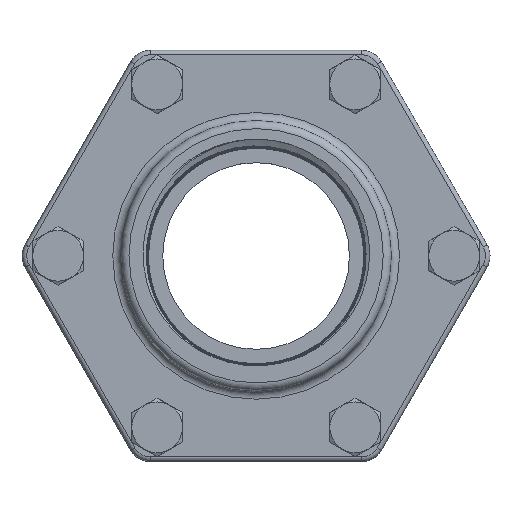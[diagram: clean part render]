
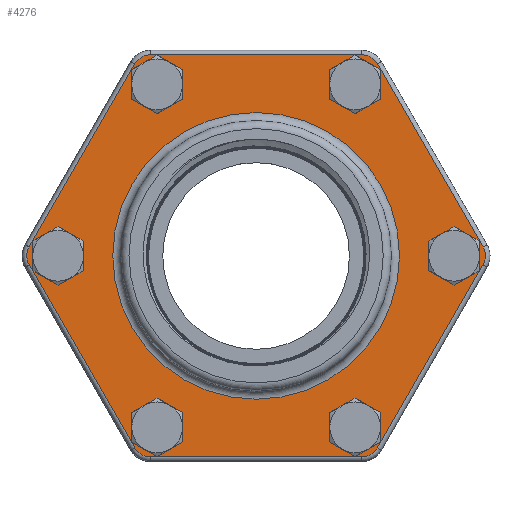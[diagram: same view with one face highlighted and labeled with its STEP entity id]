
A CAD part, top view. The second image highlights one B-rep face of the part: STEP entity #4276.
In plain terms, the highlighted planar face has unit normal (0, 0, 1).
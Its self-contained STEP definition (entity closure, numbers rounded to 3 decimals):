
#1365=PLANE('',#4492);
#1411=VECTOR('',#4869,1.);
#1415=VECTOR('',#4897,1.);
#1417=VECTOR('',#4902,1.);
#1418=VECTOR('',#4905,1.);
#1419=VECTOR('',#4908,1.);
#1420=VECTOR('',#4911,1.);
#1557=LINE('',#5698,#1411);
#1561=LINE('',#5722,#1415);
#1563=LINE('',#5728,#1417);
#1564=LINE('',#5732,#1418);
#1565=LINE('',#5736,#1419);
#1566=LINE('',#5739,#1420);
#1772=VERTEX_POINT('',#5644);
#1775=VERTEX_POINT('',#5649);
#1796=VERTEX_POINT('',#5699);
#1797=VERTEX_POINT('',#5703);
#1799=VERTEX_POINT('',#5711);
#1802=VERTEX_POINT('',#5716);
#1803=VERTEX_POINT('',#5723);
#1805=VERTEX_POINT('',#5729);
#1806=VERTEX_POINT('',#5731);
#1807=VERTEX_POINT('',#5733);
#1808=VERTEX_POINT('',#5735);
#1809=VERTEX_POINT('',#5737);
#1810=VERTEX_POINT('',#5741);
#1811=VERTEX_POINT('',#5743);
#1812=VERTEX_POINT('',#5745);
#1813=VERTEX_POINT('',#5747);
#1814=VERTEX_POINT('',#5749);
#1815=VERTEX_POINT('',#5751);
#1816=VERTEX_POINT('',#5753);
#2120=CIRCLE('',#4460,0.508);
#2137=CIRCLE('',#4482,0.508);
#2141=CIRCLE('',#4488,0.508);
#2143=CIRCLE('',#4493,0.508);
#2144=CIRCLE('',#4494,0.508);
#2145=CIRCLE('',#4495,0.508);
#2146=CIRCLE('',#4496,0.503);
#2147=CIRCLE('',#4497,0.503);
#2148=CIRCLE('',#4498,0.503);
#2149=CIRCLE('',#4499,0.503);
#2150=CIRCLE('',#4500,0.503);
#2151=CIRCLE('',#4501,0.503);
#2152=CIRCLE('',#4502,4.039);
#2274=EDGE_CURVE('',#1775,#1772,#2120,.T.);
#2298=EDGE_CURVE('',#1772,#1796,#1557,.T.);
#2302=EDGE_CURVE('',#1796,#1797,#2137,.T.);
#2307=EDGE_CURVE('',#1802,#1799,#2141,.T.);
#2310=EDGE_CURVE('',#1799,#1803,#1561,.T.);
#2313=EDGE_CURVE('',#1805,#1775,#1563,.T.);
#2314=EDGE_CURVE('',#1806,#1805,#2143,.T.);
#2315=EDGE_CURVE('',#1807,#1806,#1564,.T.);
#2316=EDGE_CURVE('',#1808,#1807,#2144,.T.);
#2317=EDGE_CURVE('',#1809,#1808,#1565,.T.);
#2318=EDGE_CURVE('',#1803,#1809,#2145,.T.);
#2319=EDGE_CURVE('',#1797,#1802,#1566,.T.);
#2320=EDGE_CURVE('',#1810,#1810,#2146,.T.);
#2321=EDGE_CURVE('',#1811,#1811,#2147,.T.);
#2322=EDGE_CURVE('',#1812,#1812,#2148,.T.);
#2323=EDGE_CURVE('',#1813,#1813,#2149,.T.);
#2324=EDGE_CURVE('',#1814,#1814,#2150,.T.);
#2325=EDGE_CURVE('',#1815,#1815,#2151,.T.);
#2326=EDGE_CURVE('',#1816,#1816,#2152,.T.);
#2831=ORIENTED_EDGE('',*,*,#2274,.F.);
#2832=ORIENTED_EDGE('',*,*,#2313,.F.);
#2833=ORIENTED_EDGE('',*,*,#2314,.F.);
#2834=ORIENTED_EDGE('',*,*,#2315,.F.);
#2835=ORIENTED_EDGE('',*,*,#2316,.F.);
#2836=ORIENTED_EDGE('',*,*,#2317,.F.);
#2837=ORIENTED_EDGE('',*,*,#2318,.F.);
#2838=ORIENTED_EDGE('',*,*,#2310,.F.);
#2839=ORIENTED_EDGE('',*,*,#2307,.F.);
#2840=ORIENTED_EDGE('',*,*,#2319,.F.);
#2841=ORIENTED_EDGE('',*,*,#2302,.F.);
#2842=ORIENTED_EDGE('',*,*,#2298,.F.);
#2843=ORIENTED_EDGE('',*,*,#2320,.F.);
#2844=ORIENTED_EDGE('',*,*,#2321,.F.);
#2845=ORIENTED_EDGE('',*,*,#2322,.F.);
#2846=ORIENTED_EDGE('',*,*,#2323,.F.);
#2847=ORIENTED_EDGE('',*,*,#2324,.F.);
#2848=ORIENTED_EDGE('',*,*,#2325,.F.);
#2849=ORIENTED_EDGE('',*,*,#2326,.F.);
#3803=EDGE_LOOP('',(#2831,#2832,#2833,#2834,#2835,#2836,#2837,#2838,#2839,
#2840,#2841,#2842));
#3804=EDGE_LOOP('',(#2843));
#3805=EDGE_LOOP('',(#2844));
#3806=EDGE_LOOP('',(#2845));
#3807=EDGE_LOOP('',(#2846));
#3808=EDGE_LOOP('',(#2847));
#3809=EDGE_LOOP('',(#2848));
#3810=EDGE_LOOP('',(#2849));
#4043=FACE_BOUND('',#3803,.T.);
#4044=FACE_BOUND('',#3804,.T.);
#4045=FACE_BOUND('',#3805,.T.);
#4046=FACE_BOUND('',#3806,.T.);
#4047=FACE_BOUND('',#3807,.T.);
#4048=FACE_BOUND('',#3808,.T.);
#4049=FACE_BOUND('',#3809,.T.);
#4050=FACE_BOUND('',#3810,.T.);
#4276=ADVANCED_FACE('',(#4043,#4044,#4045,#4046,#4047,#4048,#4049,#4050),
#1365,.T.);
#4460=AXIS2_PLACEMENT_3D('',#5650,#4825,#4826);
#4482=AXIS2_PLACEMENT_3D('',#5706,#4877,#4878);
#4488=AXIS2_PLACEMENT_3D('',#5717,#4889,#4890);
#4492=AXIS2_PLACEMENT_3D('',#5727,#4901,$);
#4493=AXIS2_PLACEMENT_3D('',#5730,#4903,#4904);
#4494=AXIS2_PLACEMENT_3D('',#5734,#4906,#4907);
#4495=AXIS2_PLACEMENT_3D('',#5738,#4909,#4910);
#4496=AXIS2_PLACEMENT_3D('',#5740,#4912,#4913);
#4497=AXIS2_PLACEMENT_3D('',#5742,#4914,#4915);
#4498=AXIS2_PLACEMENT_3D('',#5744,#4916,#4917);
#4499=AXIS2_PLACEMENT_3D('',#5746,#4918,#4919);
#4500=AXIS2_PLACEMENT_3D('',#5748,#4920,#4921);
#4501=AXIS2_PLACEMENT_3D('',#5750,#4922,#4923);
#4502=AXIS2_PLACEMENT_3D('',#5752,#4924,#4925);
#4825=DIRECTION('',(0.,0.,-1.));
#4826=DIRECTION('',(0.254,-0.44,0.));
#4869=DIRECTION('',(-1.,0.,0.));
#4877=DIRECTION('',(0.,0.,-1.));
#4878=DIRECTION('',(-0.254,-0.44,0.));
#4889=DIRECTION('',(0.,0.,-1.));
#4890=DIRECTION('',(-0.508,0.,0.));
#4897=DIRECTION('',(0.5,0.866,0.));
#4901=DIRECTION('',(0.,0.,1.));
#4902=DIRECTION('',(-0.5,-0.866,0.));
#4903=DIRECTION('',(0.,0.,-1.));
#4904=DIRECTION('',(0.508,0.,0.));
#4905=DIRECTION('',(0.5,-0.866,0.));
#4906=DIRECTION('',(0.,0.,-1.));
#4907=DIRECTION('',(0.254,0.44,0.));
#4908=DIRECTION('',(1.,0.,0.));
#4909=DIRECTION('',(0.,0.,-1.));
#4910=DIRECTION('',(-0.254,0.44,0.));
#4911=DIRECTION('',(-0.5,0.866,0.));
#4912=DIRECTION('',(0.,0.,1.));
#4913=DIRECTION('',(0.503,0.,0.));
#4914=DIRECTION('',(0.,0.,1.));
#4915=DIRECTION('',(0.503,0.,0.));
#4916=DIRECTION('',(0.,0.,1.));
#4917=DIRECTION('',(0.503,0.,0.));
#4918=DIRECTION('',(0.,0.,1.));
#4919=DIRECTION('',(0.503,0.,0.));
#4920=DIRECTION('',(0.,0.,1.));
#4921=DIRECTION('',(0.503,0.,0.));
#4922=DIRECTION('',(0.,0.,1.));
#4923=DIRECTION('',(0.503,0.,0.));
#4924=DIRECTION('',(0.,0.,1.));
#4925=DIRECTION('',(-4.039,0.,0.));
#5644=CARTESIAN_POINT('',(2.977,-5.664,1.854));
#5649=CARTESIAN_POINT('',(3.417,-5.41,1.854));
#5650=CARTESIAN_POINT('',(2.977,-5.156,1.854));
#5698=CARTESIAN_POINT('',(0.,-5.664,1.854));
#5699=CARTESIAN_POINT('',(-2.977,-5.664,1.854));
#5703=CARTESIAN_POINT('',(-3.417,-5.41,1.854));
#5706=CARTESIAN_POINT('',(-2.977,-5.156,1.854));
#5711=CARTESIAN_POINT('',(-6.394,0.254,1.854));
#5716=CARTESIAN_POINT('',(-6.394,-0.254,1.854));
#5717=CARTESIAN_POINT('',(-5.954,0.,1.854));
#5722=CARTESIAN_POINT('',(-4.905,2.832,1.854));
#5723=CARTESIAN_POINT('',(-3.417,5.41,1.854));
#5727=CARTESIAN_POINT('',(0.,0.,1.854));
#5728=CARTESIAN_POINT('',(4.905,-2.832,1.854));
#5729=CARTESIAN_POINT('',(6.394,-0.254,1.854));
#5730=CARTESIAN_POINT('',(5.954,0.,1.854));
#5731=CARTESIAN_POINT('',(6.394,0.254,1.854));
#5732=CARTESIAN_POINT('',(4.905,2.832,1.854));
#5733=CARTESIAN_POINT('',(3.417,5.41,1.854));
#5734=CARTESIAN_POINT('',(2.977,5.156,1.854));
#5735=CARTESIAN_POINT('',(2.977,5.664,1.854));
#5736=CARTESIAN_POINT('',(0.,5.664,1.854));
#5737=CARTESIAN_POINT('',(-2.977,5.664,1.854));
#5738=CARTESIAN_POINT('',(-2.977,5.156,1.854));
#5739=CARTESIAN_POINT('',(-4.905,-2.832,1.854));
#5740=CARTESIAN_POINT('',(2.789,-4.831,1.854));
#5741=CARTESIAN_POINT('',(3.292,-4.831,1.854));
#5742=CARTESIAN_POINT('',(-2.789,-4.831,1.854));
#5743=CARTESIAN_POINT('',(-2.286,-4.831,1.854));
#5744=CARTESIAN_POINT('',(-5.578,0.,1.854));
#5745=CARTESIAN_POINT('',(-5.076,0.,1.854));
#5746=CARTESIAN_POINT('',(-2.789,4.831,1.854));
#5747=CARTESIAN_POINT('',(-2.286,4.831,1.854));
#5748=CARTESIAN_POINT('',(2.789,4.831,1.854));
#5749=CARTESIAN_POINT('',(3.292,4.831,1.854));
#5750=CARTESIAN_POINT('',(5.578,0.,1.854));
#5751=CARTESIAN_POINT('',(6.081,0.,1.854));
#5752=CARTESIAN_POINT('',(0.,0.,1.854));
#5753=CARTESIAN_POINT('',(4.039,0.,1.854));
